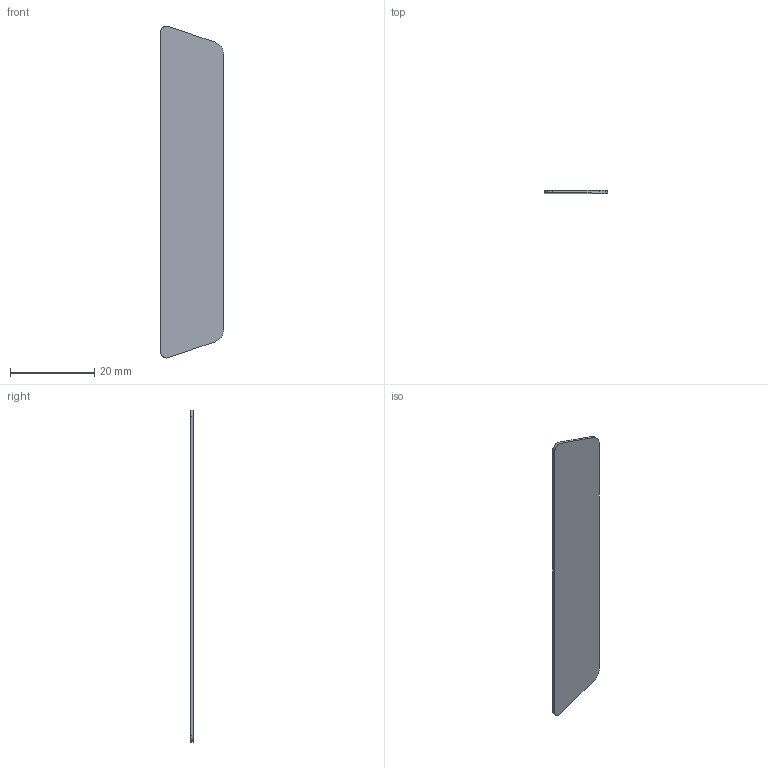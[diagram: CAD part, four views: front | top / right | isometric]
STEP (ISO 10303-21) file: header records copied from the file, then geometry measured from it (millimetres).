
FILE_DESCRIPTION(('STEP AP214'),'1');
FILE_NAME('tmp0.step','2025-05-02T11:23:35',(' '),(' '),'Spatial InterOp 3D',' ',' ');
FILE_SCHEMA(('AUTOMOTIVE_DESIGN { 1 0 10303 214 1 1 1 1 }'));
Length unit declared in the file: millimetre
Products named in the file (1): Thickness Data
Bounding box: 15 x 0.6 x 78.79 mm (x, y, z)
Volume: 671.3 mm3; surface area: 2344.2 mm2
Topology: 1 solids, 1 shells, 14 faces, 36 edges, 24 vertices
Faces by surface type: cylinder 8, plane 6
Entity records: 461 total; most frequent: DIRECTION 82, CARTESIAN_POINT 75, ORIENTED_EDGE 72, EDGE_CURVE 36, AXIS2_PLACEMENT_3D 31, VERTEX_POINT 24, LINE 20, VECTOR 20
